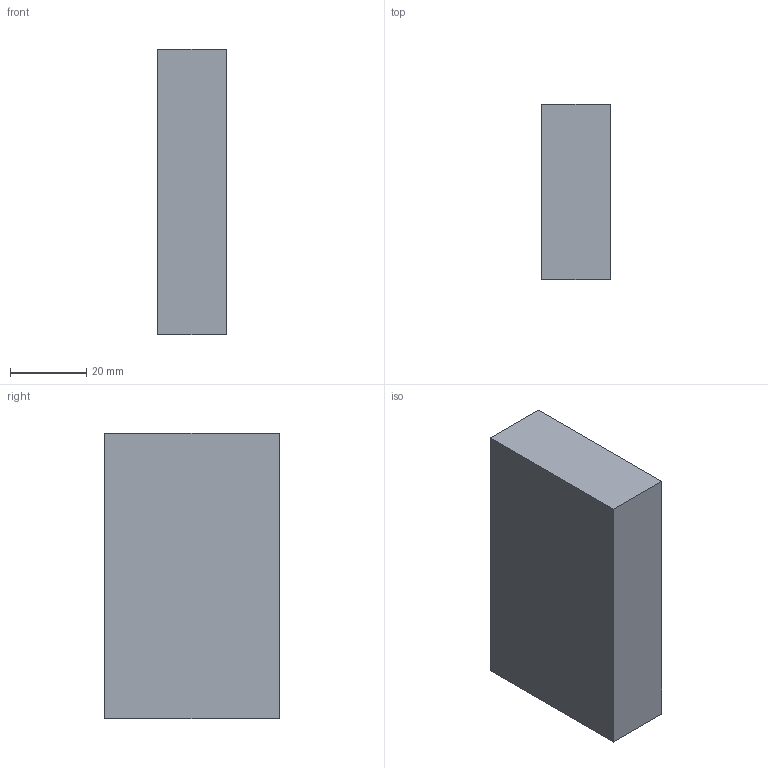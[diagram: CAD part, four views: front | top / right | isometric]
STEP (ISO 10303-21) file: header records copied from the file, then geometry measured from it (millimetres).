
FILE_DESCRIPTION(('Open CASCADE Model'),'2;1');
FILE_NAME('Open CASCADE Shape Model','2026-09-19T23:46:40',('Author'),( 'Open CASCADE'),'Open CASCADE STEP processor 7.9','Open CASCADE 7.9' ,'Unknown');
FILE_SCHEMA(('AUTOMOTIVE_DESIGN { 1 0 10303 214 1 1 1 1 }'));
Length unit declared in the file: millimetre
Products named in the file (1): Open CASCADE STEP translator 7.9 77
Bounding box: 18 x 46 x 75 mm (x, y, z)
Volume: 62100 mm3; surface area: 11256 mm2
Topology: 1 solids, 1 shells, 6 faces, 12 edges, 8 vertices
Faces by surface type: plane 6
Entity records: 322 total; most frequent: CARTESIAN_POINT 51, DIRECTION 50, LINE 36, VECTOR 36, ORIENTED_EDGE 24, PCURVE 24, DEFINITIONAL_REPRESENTATION 24, EDGE_CURVE 12
